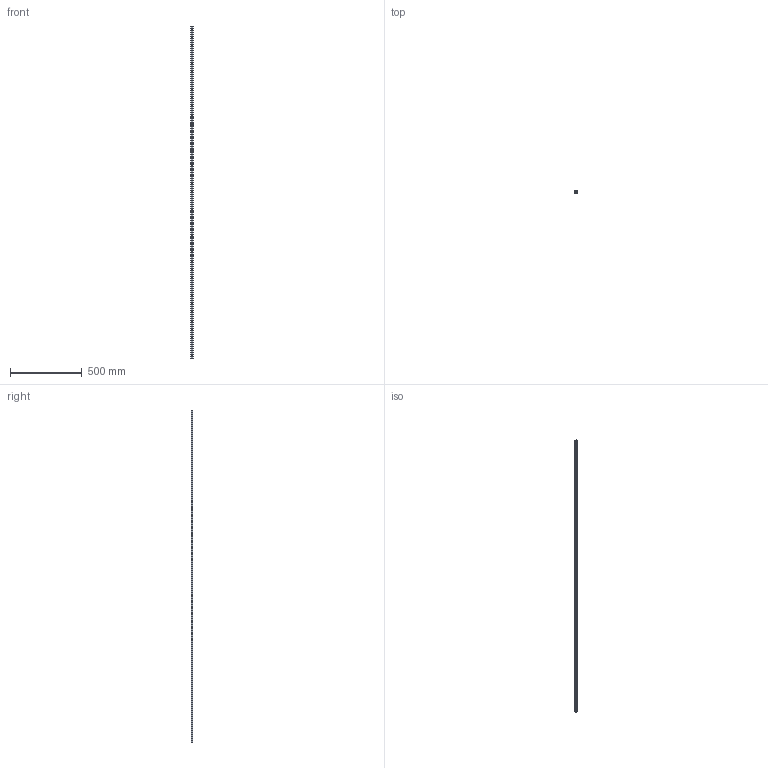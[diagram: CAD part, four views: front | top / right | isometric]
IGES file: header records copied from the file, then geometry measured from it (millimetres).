
Start section: SolidWorks IGES file using analytic representation for surfaces
Global section: file name: C:\Users\IanO\Desktop\L1016_v2\L1016.BL15_v2\L1016.BL15_v2_20190611_IGES\L1016.BL15-2320.igs; native system: SolidWorks 2017; preprocessor: SolidWorks 2017; author: IanO; date: 190612.123152; units: millimetre
Bounding box: 15 x 13 x 2320 mm (x, y, z)
Surface area: 141781.6 mm2 (no closed solid volume)
Topology: 0 solids, 0 shells, 221 faces, 5768 edges, 5768 vertices
Faces by surface type: revolution 160, bspline 61
